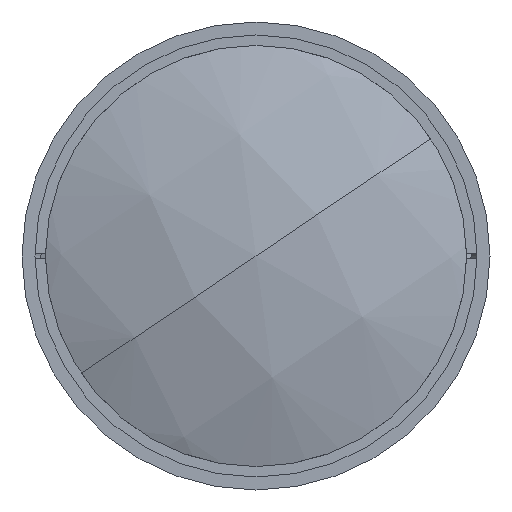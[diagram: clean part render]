
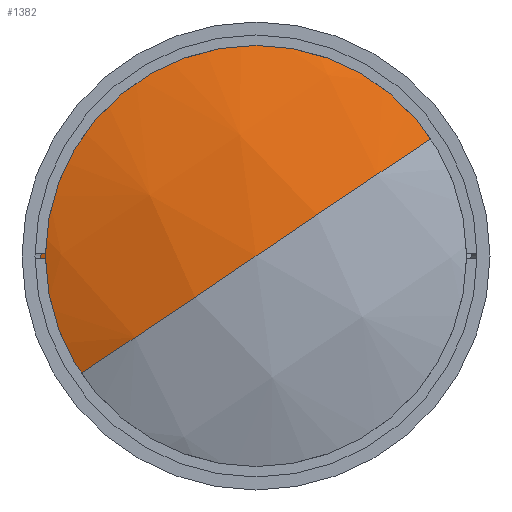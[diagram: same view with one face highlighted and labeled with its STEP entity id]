
A CAD part, left-side view. The second image highlights one B-rep face of the part: STEP entity #1382.
In plain terms, the highlighted spherical face has radius 111.8 mm.
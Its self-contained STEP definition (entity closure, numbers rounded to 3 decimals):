
#517 = CARTESIAN_POINT ( 'NONE',  ( 9.488, -34.435, 23.162 ) ) ;
#677 = FACE_OUTER_BOUND ( 'NONE', #13802, .T. ) ;
#1382 = ADVANCED_FACE ( 'NONE', ( #677 ), #7401, .T. ) ;
#1397 = CIRCLE ( 'NONE', #2897, 41.5 ) ;
#1580 = CARTESIAN_POINT ( 'NONE',  ( 113.3, 0., 0. ) ) ;
#2189 = CARTESIAN_POINT ( 'NONE',  ( 113.3, 0., 0. ) ) ;
#2779 = DIRECTION ( 'NONE',  ( 0., 0.83, -0.558 ) ) ;
#2797 = CARTESIAN_POINT ( 'NONE',  ( 113.3, 0., 0. ) ) ;
#2897 = AXIS2_PLACEMENT_3D ( 'NONE', #13351, #6215, #14576 ) ;
#3084 = AXIS2_PLACEMENT_3D ( 'NONE', #1580, #9942, #2779 ) ;
#3279 = AXIS2_PLACEMENT_3D ( 'NONE', #2797, #14722, #13558 ) ;
#3396 = DIRECTION ( 'NONE',  ( 0., -0.83, 0.558 ) ) ;
#4932 = EDGE_CURVE ( 'NONE', #15168, #13723, #7958, .T. ) ;
#6215 = DIRECTION ( 'NONE',  ( -1., 0., 0. ) ) ;
#7370 = CARTESIAN_POINT ( 'NONE',  ( 1.5, 0., 0. ) ) ;
#7401 = SPHERICAL_SURFACE ( 'NONE', #3279, 111.8 ) ;
#7958 = CIRCLE ( 'NONE', #3084, 111.8 ) ;
#8825 = ORIENTED_EDGE ( 'NONE', *, *, #4932, .F. ) ;
#9382 = CARTESIAN_POINT ( 'NONE',  ( 9.488, 34.435, -23.162 ) ) ;
#9519 = VERTEX_POINT ( 'NONE', #9382 ) ;
#9942 = DIRECTION ( 'NONE',  ( 0., -0.558, -0.83 ) ) ;
#10544 = DIRECTION ( 'NONE',  ( 0., 0.558, 0.83 ) ) ;
#11429 = EDGE_CURVE ( 'NONE', #9519, #13723, #15247, .T. ) ;
#11801 = AXIS2_PLACEMENT_3D ( 'NONE', #2189, #10544, #3396 ) ;
#12719 = EDGE_CURVE ( 'NONE', #15168, #9519, #1397, .T. ) ;
#13263 = ORIENTED_EDGE ( 'NONE', *, *, #11429, .T. ) ;
#13351 = CARTESIAN_POINT ( 'NONE',  ( 9.488, 0., 0. ) ) ;
#13558 = DIRECTION ( 'NONE',  ( 0., -0.83, 0.558 ) ) ;
#13723 = VERTEX_POINT ( 'NONE', #7370 ) ;
#13802 = EDGE_LOOP ( 'NONE', ( #15166, #13263, #8825 ) ) ;
#14576 = DIRECTION ( 'NONE',  ( 0., 0.558, 0.83 ) ) ;
#14722 = DIRECTION ( 'NONE',  ( 0., 0.558, 0.83 ) ) ;
#15166 = ORIENTED_EDGE ( 'NONE', *, *, #12719, .T. ) ;
#15168 = VERTEX_POINT ( 'NONE', #517 ) ;
#15247 = CIRCLE ( 'NONE', #11801, 111.8 ) ;
